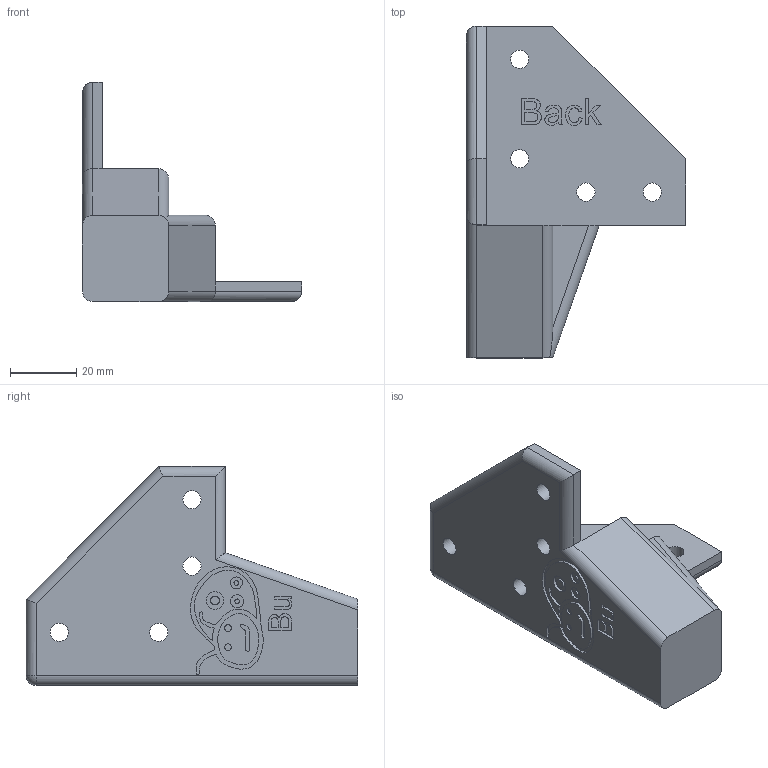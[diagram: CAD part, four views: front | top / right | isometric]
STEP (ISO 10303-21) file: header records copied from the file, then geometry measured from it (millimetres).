
FILE_DESCRIPTION(/* description */ (''),/* implementation_level */ '2;1');
FILE_NAME(/* name */ 'Foot - Back x2 v3.step',/* time_stamp */ '2023-03-23T06:34:00-06:00',/* author */ (''),/* organization */ (''),/* preprocessor_version */ 'ST-DEVELOPER v19.2',/* originating_system */ 'Autodesk Translation Framework v11.17.0.187',/* authorisation */ '');
FILE_SCHEMA (('AUTOMOTIVE_DESIGN { 1 0 10303 214 3 1 1 }'));
Length unit declared in the file: millimetre
Products named in the file (2): Foot - Back x2; Foot 4
Assembly tree (1 placements, depth 2):
  Foot - Back x2
    Foot 4
Bounding box: 66 x 100 x 66 mm (x, y, z)
Volume: 74960.9 mm3; surface area: 20685.6 mm2
Topology: 1 solids, 1 shells, 233 faces, 610 edges, 402 vertices
Faces by surface type: bspline 119, plane 84, cylinder 29, sphere 1
Full cylindrical faces by diameter (mm): 1.385 x1, 1.459 x1, 2.064 x2, 2.691 x1, 3.604 x1, 3.97 x1, 5.262 x1, 5.5 x8
Entity records: 9919 total; most frequent: CARTESIAN_POINT 4895, ORIENTED_EDGE 1220, DIRECTION 657, EDGE_CURVE 610, VERTEX_POINT 402, LINE 321, VECTOR 321, EDGE_LOOP 272
